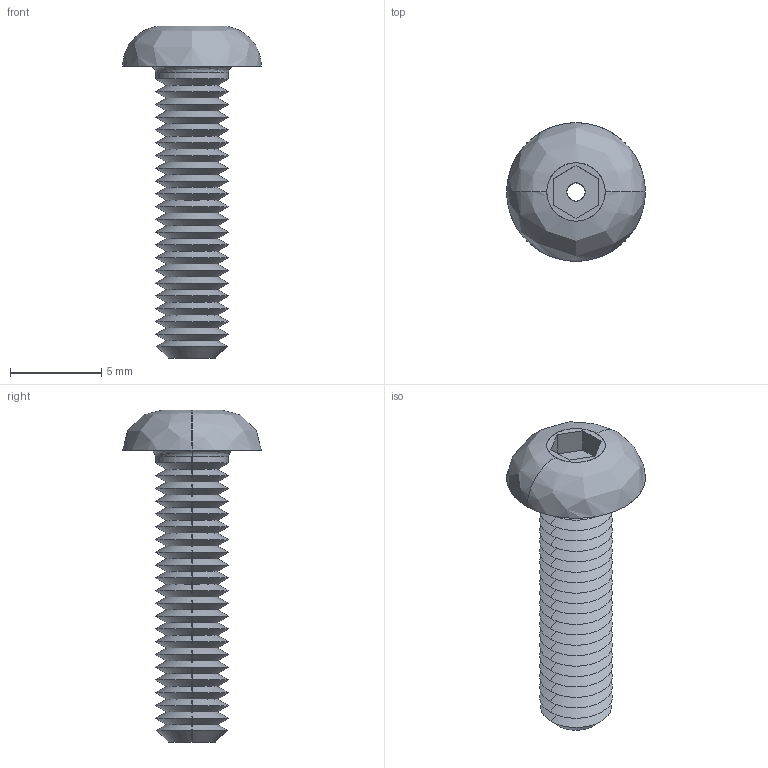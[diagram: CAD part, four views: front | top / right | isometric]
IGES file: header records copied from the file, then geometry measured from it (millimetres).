
Start section: SolidWorks IGES file using analytic representation for surfaces
Global section: file name: C:\Users\liam_\OneDrive\Documents\WORK\Work for WixRoyd\Job Files\J-00019 - Matt Davis CAD Checking\04. CAD Drawings\automotion20190605\P0094_v2\P0094_v2_20190712_IGES\P0094.040-016-A2.igs; native system: SolidWorks 2017; preprocessor: SolidWorks 2017; author: liam_; date: 190712.175304; units: millimetre
Bounding box: 7.6 x 7.6 x 18.2 mm (x, y, z)
Surface area: 502.8 mm2 (no closed solid volume)
Topology: 0 solids, 0 shells, 104 faces, 572 edges, 572 vertices
Faces by surface type: revolution 90, bspline 14
